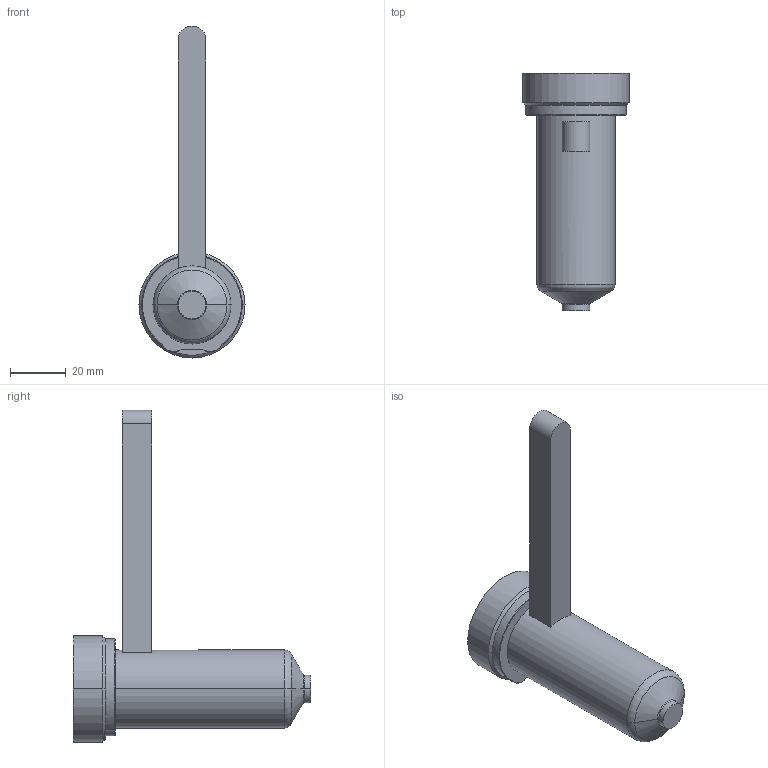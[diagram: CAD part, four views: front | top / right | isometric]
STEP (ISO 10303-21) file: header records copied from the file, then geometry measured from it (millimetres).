
FILE_DESCRIPTION((''),'2;1');
FILE_NAME('EO06_VG-FB_STD_070_COT','2024-02-19T13:23:32',('sundharh'),(''),'CREO PARAMETRIC BY PTC INC, 2023154','CREO PARAMETRIC BY PTC INC, 2023154','');
FILE_SCHEMA(('CONFIG_CONTROL_DESIGN'));
Length unit declared in the file: millimetre
Products named in the file (1): EO06_VG-FB_STD_070_COT
Bounding box: 38 x 85 x 119 mm (x, y, z)
Volume: 65552.5 mm3; surface area: 13052.6 mm2
Topology: 1 solids, 1 shells, 31 faces, 67 edges, 40 vertices
Faces by surface type: cylinder 11, plane 9, torus 7, cone 4
Entity records: 963 total; most frequent: CARTESIAN_POINT 230, DIRECTION 159, ORIENTED_EDGE 134, AXIS2_PLACEMENT_3D 67, EDGE_CURVE 67, VERTEX_POINT 40, CIRCLE 36, EDGE_LOOP 33
